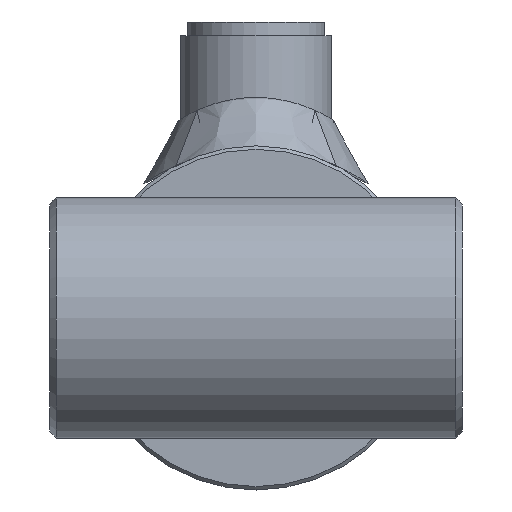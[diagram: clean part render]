
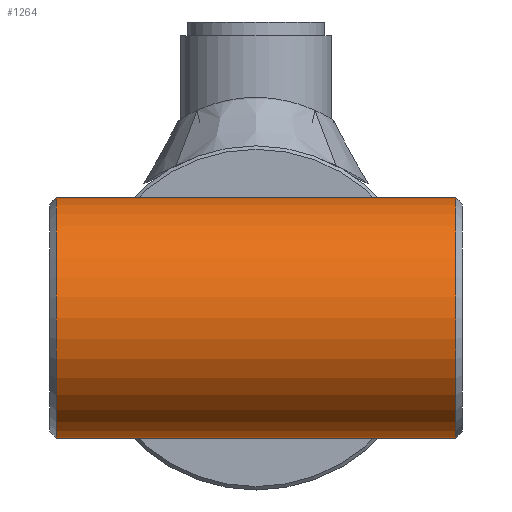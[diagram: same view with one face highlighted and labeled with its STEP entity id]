
A CAD part, left-side view. The second image highlights one B-rep face of the part: STEP entity #1264.
In plain terms, the highlighted cylindrical face has radius 17.5 mm (diameter 35 mm), a full revolution.
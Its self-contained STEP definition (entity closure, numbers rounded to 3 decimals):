
#1264 = ADVANCED_FACE( '', ( #2390, #2391 ), #2392, .T. );
#2390 = FACE_OUTER_BOUND( '', #8898, .T. );
#2391 = FACE_OUTER_BOUND( '', #8899, .T. );
#2392 = CYLINDRICAL_SURFACE( '', #8900, 17.5 );
#8898 = EDGE_LOOP( '', ( #10700 ) );
#8899 = EDGE_LOOP( '', ( #10701 ) );
#8900 = AXIS2_PLACEMENT_3D( '', #10702, #10703, #10704 );
#10700 = ORIENTED_EDGE( '', *, *, #10953, .T. );
#10701 = ORIENTED_EDGE( '', *, *, #10892, .T. );
#10702 = CARTESIAN_POINT( '', ( 0., -30., 0. ) );
#10703 = DIRECTION( '', ( 0., -1., 0. ) );
#10704 = DIRECTION( '', ( 0., 0., 1. ) );
#10892 = EDGE_CURVE( '', #11692, #11692, #11693, .T. );
#10953 = EDGE_CURVE( '', #11794, #11794, #11795, .F. );
#11692 = VERTEX_POINT( '', #12855 );
#11693 = CIRCLE( '', #12856, 17.5 );
#11794 = VERTEX_POINT( '', #13189 );
#11795 = CIRCLE( '', #13190, 17.5 );
#12855 = CARTESIAN_POINT( '', ( 0., -29., 17.5 ) );
#12856 = AXIS2_PLACEMENT_3D( '', #15610, #15611, #15612 );
#13189 = CARTESIAN_POINT( '', ( 0., 29., 17.5 ) );
#13190 = AXIS2_PLACEMENT_3D( '', #15658, #15659, #15660 );
#15610 = CARTESIAN_POINT( '', ( 0., -29., 0. ) );
#15611 = DIRECTION( '', ( 0., 1., 0. ) );
#15612 = DIRECTION( '', ( 0., 0., 1. ) );
#15658 = CARTESIAN_POINT( '', ( 0., 29., 0. ) );
#15659 = DIRECTION( '', ( 0., 1., 0. ) );
#15660 = DIRECTION( '', ( 0., 0., 1. ) );
